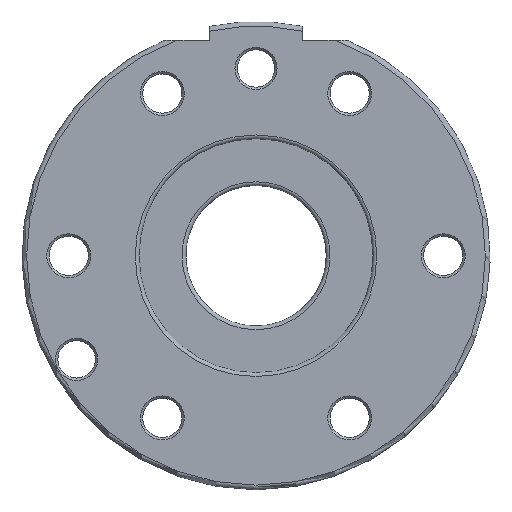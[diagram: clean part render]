
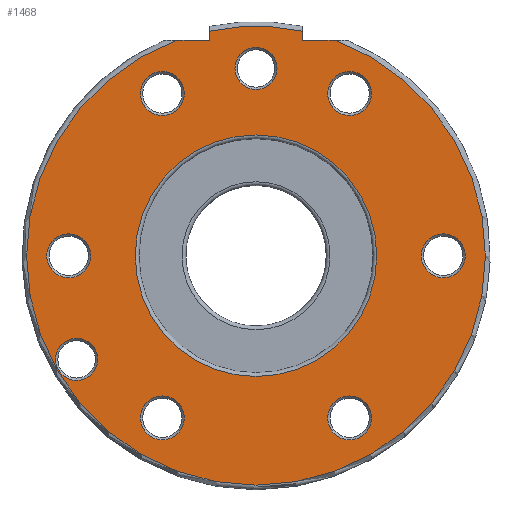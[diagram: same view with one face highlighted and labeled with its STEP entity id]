
A CAD part, front view. The second image highlights one B-rep face of the part: STEP entity #1468.
In plain terms, the highlighted planar face has unit normal (0, -1, 0).
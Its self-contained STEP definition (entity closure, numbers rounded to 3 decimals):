
#73=FACE_BOUND('',#233,.T.);
#74=FACE_BOUND('',#234,.T.);
#75=FACE_BOUND('',#235,.T.);
#76=FACE_BOUND('',#236,.T.);
#77=FACE_BOUND('',#237,.T.);
#78=FACE_BOUND('',#238,.T.);
#79=FACE_BOUND('',#239,.T.);
#80=FACE_BOUND('',#240,.T.);
#81=FACE_BOUND('',#241,.T.);
#92=PLANE('',#1584);
#143=FACE_OUTER_BOUND('',#232,.T.);
#232=EDGE_LOOP('',(#961,#962,#963,#964,#965,#966));
#233=EDGE_LOOP('',(#967));
#234=EDGE_LOOP('',(#968));
#235=EDGE_LOOP('',(#969));
#236=EDGE_LOOP('',(#970));
#237=EDGE_LOOP('',(#971));
#238=EDGE_LOOP('',(#972));
#239=EDGE_LOOP('',(#973));
#240=EDGE_LOOP('',(#974,#975));
#241=EDGE_LOOP('',(#976));
#333=LINE('',#2246,#402);
#334=LINE('',#2248,#403);
#335=LINE('',#2252,#404);
#336=LINE('',#2253,#405);
#402=VECTOR('',#1803,10.);
#403=VECTOR('',#1804,10.);
#404=VECTOR('',#1807,10.);
#405=VECTOR('',#1808,10.);
#479=CIRCLE('',#1583,4.5);
#480=CIRCLE('',#1585,49.);
#481=CIRCLE('',#1586,49.);
#482=CIRCLE('',#1587,4.5);
#483=CIRCLE('',#1588,4.688);
#484=CIRCLE('',#1589,4.688);
#485=CIRCLE('',#1590,4.688);
#486=CIRCLE('',#1591,4.688);
#487=CIRCLE('',#1592,4.688);
#488=CIRCLE('',#1593,4.688);
#489=CIRCLE('',#1594,25.8);
#490=CIRCLE('',#1595,25.8);
#589=VERTEX_POINT('',#2238);
#590=VERTEX_POINT('',#2242);
#591=VERTEX_POINT('',#2243);
#592=VERTEX_POINT('',#2245);
#593=VERTEX_POINT('',#2247);
#594=VERTEX_POINT('',#2249);
#595=VERTEX_POINT('',#2251);
#596=VERTEX_POINT('',#2254);
#597=VERTEX_POINT('',#2256);
#598=VERTEX_POINT('',#2258);
#599=VERTEX_POINT('',#2260);
#600=VERTEX_POINT('',#2262);
#601=VERTEX_POINT('',#2264);
#602=VERTEX_POINT('',#2266);
#603=VERTEX_POINT('',#2268);
#604=VERTEX_POINT('',#2269);
#737=EDGE_CURVE('',#589,#589,#479,.T.);
#739=EDGE_CURVE('',#590,#591,#480,.T.);
#740=EDGE_CURVE('',#590,#592,#333,.T.);
#741=EDGE_CURVE('',#592,#593,#334,.T.);
#742=EDGE_CURVE('',#594,#593,#481,.T.);
#743=EDGE_CURVE('',#594,#595,#335,.T.);
#744=EDGE_CURVE('',#595,#591,#336,.T.);
#745=EDGE_CURVE('',#596,#596,#482,.T.);
#746=EDGE_CURVE('',#597,#597,#483,.T.);
#747=EDGE_CURVE('',#598,#598,#484,.T.);
#748=EDGE_CURVE('',#599,#599,#485,.T.);
#749=EDGE_CURVE('',#600,#600,#486,.T.);
#750=EDGE_CURVE('',#601,#601,#487,.T.);
#751=EDGE_CURVE('',#602,#602,#488,.T.);
#752=EDGE_CURVE('',#603,#604,#489,.T.);
#753=EDGE_CURVE('',#604,#603,#490,.T.);
#961=ORIENTED_EDGE('',*,*,#739,.F.);
#962=ORIENTED_EDGE('',*,*,#740,.T.);
#963=ORIENTED_EDGE('',*,*,#741,.T.);
#964=ORIENTED_EDGE('',*,*,#742,.F.);
#965=ORIENTED_EDGE('',*,*,#743,.T.);
#966=ORIENTED_EDGE('',*,*,#744,.T.);
#967=ORIENTED_EDGE('',*,*,#745,.F.);
#968=ORIENTED_EDGE('',*,*,#746,.F.);
#969=ORIENTED_EDGE('',*,*,#747,.F.);
#970=ORIENTED_EDGE('',*,*,#748,.F.);
#971=ORIENTED_EDGE('',*,*,#749,.F.);
#972=ORIENTED_EDGE('',*,*,#750,.F.);
#973=ORIENTED_EDGE('',*,*,#751,.F.);
#974=ORIENTED_EDGE('',*,*,#752,.F.);
#975=ORIENTED_EDGE('',*,*,#753,.F.);
#976=ORIENTED_EDGE('',*,*,#737,.F.);
#1468=ADVANCED_FACE('',(#143,#73,#74,#75,#76,#77,#78,#79,#80,#81),#92,.T.);
#1583=AXIS2_PLACEMENT_3D('',#2239,#1796,#1797);
#1584=AXIS2_PLACEMENT_3D('',#2241,#1799,#1800);
#1585=AXIS2_PLACEMENT_3D('',#2244,#1801,#1802);
#1586=AXIS2_PLACEMENT_3D('',#2250,#1805,#1806);
#1587=AXIS2_PLACEMENT_3D('',#2255,#1809,#1810);
#1588=AXIS2_PLACEMENT_3D('',#2257,#1811,#1812);
#1589=AXIS2_PLACEMENT_3D('',#2259,#1813,#1814);
#1590=AXIS2_PLACEMENT_3D('',#2261,#1815,#1816);
#1591=AXIS2_PLACEMENT_3D('',#2263,#1817,#1818);
#1592=AXIS2_PLACEMENT_3D('',#2265,#1819,#1820);
#1593=AXIS2_PLACEMENT_3D('',#2267,#1821,#1822);
#1594=AXIS2_PLACEMENT_3D('',#2270,#1823,#1824);
#1595=AXIS2_PLACEMENT_3D('',#2271,#1825,#1826);
#1796=DIRECTION('center_axis',(0.,-1.,0.));
#1797=DIRECTION('ref_axis',(1.,0.,0.));
#1799=DIRECTION('center_axis',(0.,-1.,0.));
#1800=DIRECTION('ref_axis',(0.,0.,-1.));
#1801=DIRECTION('center_axis',(0.,1.,0.));
#1802=DIRECTION('ref_axis',(0.,0.,-1.));
#1803=DIRECTION('',(-1.,0.,0.));
#1804=DIRECTION('',(0.,0.,1.));
#1805=DIRECTION('center_axis',(0.,1.,0.));
#1806=DIRECTION('ref_axis',(0.,0.,
1.));
#1807=DIRECTION('',(0.,0.,-1.));
#1808=DIRECTION('',(-1.,0.,0.));
#1809=DIRECTION('center_axis',(0.,-1.,0.));
#1810=DIRECTION('ref_axis',(1.,0.,0.));
#1811=DIRECTION('center_axis',(0.,-1.,0.));
#1812=DIRECTION('ref_axis',(1.,0.,0.));
#1813=DIRECTION('center_axis',(0.,-1.,0.));
#1814=DIRECTION('ref_axis',(1.,0.,0.));
#1815=DIRECTION('center_axis',(0.,-1.,0.));
#1816=DIRECTION('ref_axis',(1.,0.,0.));
#1817=DIRECTION('center_axis',(0.,-1.,0.));
#1818=DIRECTION('ref_axis',(1.,0.,0.));
#1819=DIRECTION('center_axis',(0.,-1.,0.));
#1820=DIRECTION('ref_axis',(1.,0.,0.));
#1821=DIRECTION('center_axis',(0.,-1.,0.));
#1822=DIRECTION('ref_axis',(1.,0.,0.));
#1823=DIRECTION('center_axis',(0.,-1.,0.));
#1824=DIRECTION('ref_axis',(1.,0.,0.));
#1825=DIRECTION('center_axis',(0.,-1.,0.));
#1826=DIRECTION('ref_axis',(1.,0.,0.));
#2238=CARTESIAN_POINT('',(-4.5,0.,40.));
#2239=CARTESIAN_POINT('Origin',(0.,0.,
40.));
#2241=CARTESIAN_POINT('Origin',(-37.5,0.,0.));
#2242=CARTESIAN_POINT('',(16.882,0.,46.));
#2243=CARTESIAN_POINT('',(-16.882,0.,46.));
#2244=CARTESIAN_POINT('Origin',(0.,0.,
0.));
#2245=CARTESIAN_POINT('',(10.,0.,46.));
#2246=CARTESIAN_POINT('',(-9.858,0.,46.));
#2247=CARTESIAN_POINT('',(10.,0.,47.969));
#2248=CARTESIAN_POINT('',(10.,0.,25.));
#2249=CARTESIAN_POINT('',(-10.,0.,47.969));
#2250=CARTESIAN_POINT('Origin',(0.,0.,
0.));
#2251=CARTESIAN_POINT('',(-10.,0.,46.));
#2252=CARTESIAN_POINT('',(-10.,0.,25.));
#2253=CARTESIAN_POINT('',(-27.642,0.,46.));
#2254=CARTESIAN_POINT('',(-42.822,0.,-22.125));
#2255=CARTESIAN_POINT('Origin',(-38.322,0.,
-22.125));
#2256=CARTESIAN_POINT('',(35.312,0.,0.));
#2257=CARTESIAN_POINT('Origin',(40.,0.,0.));
#2258=CARTESIAN_POINT('',(-44.688,0.,0.));
#2259=CARTESIAN_POINT('Origin',(-40.,0.,0.));
#2260=CARTESIAN_POINT('',(15.312,0.,-34.641));
#2261=CARTESIAN_POINT('Origin',(20.,0.,-34.641));
#2262=CARTESIAN_POINT('',(-24.688,0.,-34.641));
#2263=CARTESIAN_POINT('Origin',(-20.,0.,-34.641));
#2264=CARTESIAN_POINT('',(-24.688,0.,34.641));
#2265=CARTESIAN_POINT('Origin',(-20.,0.,34.641));
#2266=CARTESIAN_POINT('',(15.312,0.,34.641));
#2267=CARTESIAN_POINT('Origin',(20.,0.,34.641));
#2268=CARTESIAN_POINT('',(-25.8,0.,0.));
#2269=CARTESIAN_POINT('',(0.,0.,-25.8));
#2270=CARTESIAN_POINT('Origin',(0.,0.,
0.));
#2271=CARTESIAN_POINT('Origin',(0.,0.,
0.));
